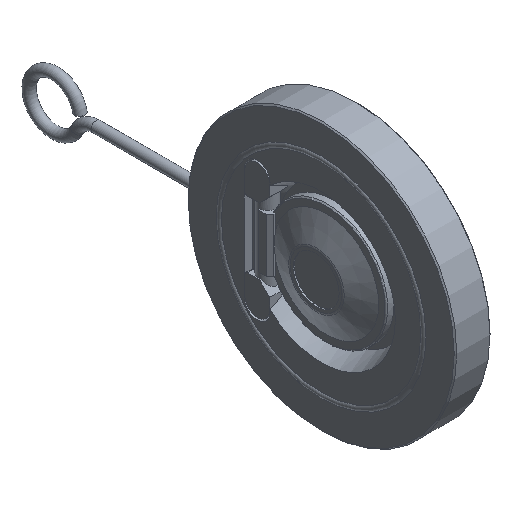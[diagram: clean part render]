
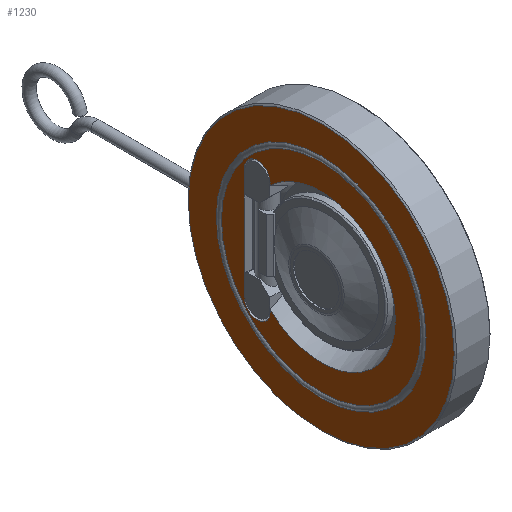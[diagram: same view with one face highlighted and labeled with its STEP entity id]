
A CAD part, isometric view. The second image highlights one B-rep face of the part: STEP entity #1230.
In plain terms, the highlighted planar face has unit normal (-1, 0, 0).
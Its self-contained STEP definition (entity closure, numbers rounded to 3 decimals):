
#31=FACE_BOUND('',#288,.T.);
#77=CIRCLE('',#1357,5.);
#78=CIRCLE('',#1360,5.);
#79=CIRCLE('',#1364,52.);
#80=CIRCLE('',#1365,29.);
#81=CIRCLE('',#1366,29.);
#135=PLANE('',#1363);
#214=FACE_OUTER_BOUND('',#287,.T.);
#287=EDGE_LOOP('',(#1069));
#288=EDGE_LOOP('',(#1070,#1071,#1072,#1073,#1074,#1075,#1076));
#394=LINE('',#2438,#487);
#397=LINE('',#2446,#490);
#398=LINE('',#2452,#491);
#487=VECTOR('',#1661,10.);
#490=VECTOR('',#1670,10.);
#491=VECTOR('',#1673,10.);
#591=VERTEX_POINT('',#2431);
#592=VERTEX_POINT('',#2432);
#593=VERTEX_POINT('',#2437);
#594=VERTEX_POINT('',#2441);
#595=VERTEX_POINT('',#2445);
#596=VERTEX_POINT('',#2451);
#597=VERTEX_POINT('',#2457);
#598=VERTEX_POINT('',#2459);
#753=EDGE_CURVE('',#591,#592,#77,.T.);
#756=EDGE_CURVE('',#592,#593,#394,.T.);
#758=EDGE_CURVE('',#593,#594,#78,.T.);
#760=EDGE_CURVE('',#594,#595,#397,.T.);
#762=EDGE_CURVE('',#596,#591,#398,.T.);
#764=EDGE_CURVE('',#597,#597,#79,.T.);
#765=EDGE_CURVE('',#595,#598,#80,.T.);
#766=EDGE_CURVE('',#598,#596,#81,.T.);
#1069=ORIENTED_EDGE('',*,*,#764,.F.);
#1070=ORIENTED_EDGE('',*,*,#762,.T.);
#1071=ORIENTED_EDGE('',*,*,#753,.T.);
#1072=ORIENTED_EDGE('',*,*,#756,.T.);
#1073=ORIENTED_EDGE('',*,*,#758,.T.);
#1074=ORIENTED_EDGE('',*,*,#760,.T.);
#1075=ORIENTED_EDGE('',*,*,#765,.T.);
#1076=ORIENTED_EDGE('',*,*,#766,.T.);
#1230=ADVANCED_FACE('',(#214,#31),#135,.T.);
#1357=AXIS2_PLACEMENT_3D('',#2433,#1655,#1656);
#1360=AXIS2_PLACEMENT_3D('',#2442,#1665,#1666);
#1363=AXIS2_PLACEMENT_3D('',#2456,#1674,#1675);
#1364=AXIS2_PLACEMENT_3D('',#2458,#1676,#1677);
#1365=AXIS2_PLACEMENT_3D('',#2460,#1678,#1679);
#1366=AXIS2_PLACEMENT_3D('',#2461,#1680,#1681);
#1655=DIRECTION('center_axis',(1.,0.,0.));
#1656=DIRECTION('ref_axis',(0.,-1.,0.));
#1661=DIRECTION('',(0.,0.,1.));
#1665=DIRECTION('center_axis',(1.,0.,0.));
#1666=DIRECTION('ref_axis',(0.,1.,0.));
#1670=DIRECTION('',(0.,0.,-1.));
#1673=DIRECTION('',(0.,0.,-1.));
#1674=DIRECTION('center_axis',(-1.,0.,0.));
#1675=DIRECTION('ref_axis',(0.,0.,1.));
#1676=DIRECTION('center_axis',(1.,0.,0.));
#1677=DIRECTION('ref_axis',(0.,0.,-1.));
#1678=DIRECTION('center_axis',(1.,0.,0.));
#1679=DIRECTION('ref_axis',(0.,1.,0.));
#1680=DIRECTION('center_axis',(1.,0.,0.));
#1681=DIRECTION('ref_axis',(0.,1.,0.));
#2431=CARTESIAN_POINT('',(-7.,20.,-22.));
#2432=CARTESIAN_POINT('',(-7.,30.,-22.));
#2433=CARTESIAN_POINT('Origin',(-7.,25.,-22.));
#2437=CARTESIAN_POINT('',(-7.,30.,22.));
#2438=CARTESIAN_POINT('',(-7.,30.,-37.));
#2441=CARTESIAN_POINT('',(-7.,20.,22.));
#2442=CARTESIAN_POINT('Origin',(-7.,25.,22.));
#2445=CARTESIAN_POINT('',(-7.,20.,21.));
#2446=CARTESIAN_POINT('',(-7.,20.,-15.));
#2451=CARTESIAN_POINT('',(-7.,20.,-21.));
#2452=CARTESIAN_POINT('',(-7.,20.,-15.));
#2456=CARTESIAN_POINT('Origin',(-7.,0.,-52.));
#2457=CARTESIAN_POINT('',(-7.,0.,52.));
#2458=CARTESIAN_POINT('Origin',(-7.,0.,0.));
#2459=CARTESIAN_POINT('',(-7.,-29.,0.));
#2460=CARTESIAN_POINT('Origin',(-7.,0.,0.));
#2461=CARTESIAN_POINT('Origin',(-7.,0.,0.));
